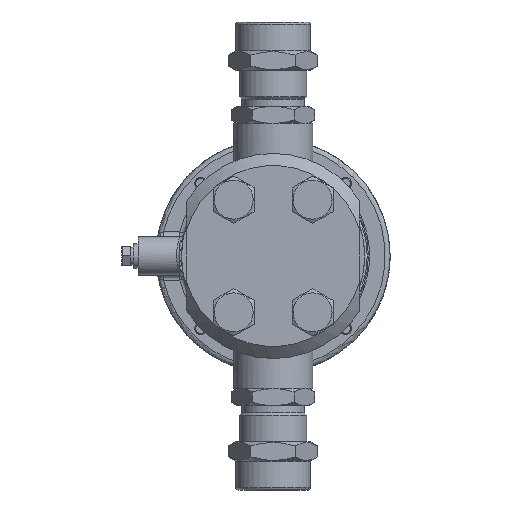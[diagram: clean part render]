
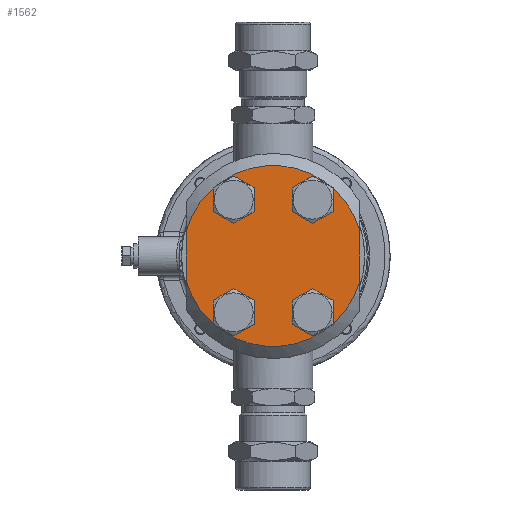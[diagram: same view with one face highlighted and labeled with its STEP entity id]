
A CAD part, front view. The second image highlights one B-rep face of the part: STEP entity #1562.
In plain terms, the highlighted planar face has unit normal (0, -1, 0).
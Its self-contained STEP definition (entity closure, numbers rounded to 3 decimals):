
#1562=ADVANCED_FACE('',(#17499,#17501,#17503,#17505,#17507),#17509,.T.);
#17499=FACE_BOUND('',#17500,.T.);
#17500=EDGE_LOOP('',(#27478,#27479,#27480,#27481,#27482));
#17501=FACE_BOUND('',#17502,.T.);
#17502=EDGE_LOOP('',(#27483,#27484,#27485,#27486,#27487));
#17503=FACE_BOUND('',#17504,.T.);
#17504=EDGE_LOOP('',(#27488,#27489,#27490,#27491,#27492));
#17505=FACE_BOUND('',#17506,.T.);
#17506=EDGE_LOOP('',(#27493,#27494,#27495,#27496));
#17507=FACE_OUTER_BOUND('',#17508,.T.);
#17508=EDGE_LOOP('',(#27497,#27498,#27499,#27500));
#17509=PLANE('',#17510);
#17510=AXIS2_PLACEMENT_3D('',#17511,#17512,#17513);
#17511=CARTESIAN_POINT('',(0.,-23.,0.));
#17512=DIRECTION('',(-0.,-1.,-0.));
#17513=DIRECTION('',(1.,0.,0.));
#27478=ORIENTED_EDGE('',*,*,#36148,.F.);
#27479=ORIENTED_EDGE('',*,*,#36118,.T.);
#27480=ORIENTED_EDGE('',*,*,#36116,.T.);
#27481=ORIENTED_EDGE('',*,*,#36160,.F.);
#27482=ORIENTED_EDGE('',*,*,#36167,.F.);
#27483=ORIENTED_EDGE('',*,*,#36130,.F.);
#27484=ORIENTED_EDGE('',*,*,#36114,.T.);
#27485=ORIENTED_EDGE('',*,*,#36112,.T.);
#27486=ORIENTED_EDGE('',*,*,#36142,.F.);
#27487=ORIENTED_EDGE('',*,*,#36168,.F.);
#27488=ORIENTED_EDGE('',*,*,#36078,.F.);
#27489=ORIENTED_EDGE('',*,*,#36122,.T.);
#27490=ORIENTED_EDGE('',*,*,#36120,.T.);
#27491=ORIENTED_EDGE('',*,*,#36090,.F.);
#27492=ORIENTED_EDGE('',*,*,#36169,.F.);
#27493=ORIENTED_EDGE('',*,*,#36060,.F.);
#27494=ORIENTED_EDGE('',*,*,#36126,.T.);
#27495=ORIENTED_EDGE('',*,*,#36072,.F.);
#27496=ORIENTED_EDGE('',*,*,#36170,.F.);
#27497=ORIENTED_EDGE('',*,*,#36097,.T.);
#27498=ORIENTED_EDGE('',*,*,#36171,.T.);
#27499=ORIENTED_EDGE('',*,*,#36106,.T.);
#27500=ORIENTED_EDGE('',*,*,#36172,.T.);
#36060=EDGE_CURVE('',#43059,#43060,#43061,.F.);
#36072=EDGE_CURVE('',#43081,#43082,#43083,.F.);
#36078=EDGE_CURVE('',#43091,#43092,#43093,.F.);
#36090=EDGE_CURVE('',#43113,#43114,#43115,.F.);
#36097=EDGE_CURVE('',#43126,#43124,#43127,.F.);
#36106=EDGE_CURVE('',#43142,#43140,#43143,.F.);
#36112=EDGE_CURVE('',#43153,#43150,#43154,.T.);
#36114=EDGE_CURVE('',#43151,#43153,#43156,.T.);
#36116=EDGE_CURVE('',#43160,#43157,#43161,.T.);
#36118=EDGE_CURVE('',#43158,#43160,#43163,.T.);
#36120=EDGE_CURVE('',#43165,#43114,#43166,.T.);
#36122=EDGE_CURVE('',#43091,#43165,#43168,.T.);
#36126=EDGE_CURVE('',#43059,#43082,#43173,.T.);
#36130=EDGE_CURVE('',#43151,#43179,#43180,.F.);
#36142=EDGE_CURVE('',#43200,#43150,#43201,.F.);
#36148=EDGE_CURVE('',#43158,#43209,#43210,.F.);
#36160=EDGE_CURVE('',#43230,#43157,#43231,.F.);
#36167=EDGE_CURVE('',#43209,#43230,#43240,.T.);
#36168=EDGE_CURVE('',#43179,#43200,#43241,.T.);
#36169=EDGE_CURVE('',#43092,#43113,#43242,.T.);
#36170=EDGE_CURVE('',#43060,#43081,#43243,.T.);
#36171=EDGE_CURVE('',#43124,#43142,#43244,.T.);
#36172=EDGE_CURVE('',#43140,#43126,#43245,.T.);
#43059=VERTEX_POINT('',#64920);
#43060=VERTEX_POINT('',#64921);
#43061=LINE('',#64922,#64923);
#43081=VERTEX_POINT('',#64968);
#43082=VERTEX_POINT('',#64969);
#43083=LINE('',#64970,#64971);
#43091=VERTEX_POINT('',#64994);
#43092=VERTEX_POINT('',#64995);
#43093=LINE('',#64996,#64997);
#43113=VERTEX_POINT('',#65042);
#43114=VERTEX_POINT('',#65043);
#43115=LINE('',#65044,#65045);
#43124=VERTEX_POINT('',#65095);
#43126=VERTEX_POINT('',#65123);
#43127=LINE('',#65124,#65125);
#43140=VERTEX_POINT('',#65235);
#43142=VERTEX_POINT('',#65263);
#43143=LINE('',#65264,#65265);
#43150=VERTEX_POINT('',#65334);
#43151=VERTEX_POINT('',#65335);
#43153=VERTEX_POINT('',#65340);
#43154=CIRCLE('',#65341,5.5);
#43156=CIRCLE('',#65348,5.5);
#43157=VERTEX_POINT('',#65352);
#43158=VERTEX_POINT('',#65353);
#43160=VERTEX_POINT('',#65358);
#43161=CIRCLE('',#65359,5.5);
#43163=CIRCLE('',#65366,5.5);
#43165=VERTEX_POINT('',#65374);
#43166=CIRCLE('',#65375,5.5);
#43168=CIRCLE('',#65382,5.5);
#43173=CIRCLE('',#65398,5.5);
#43179=VERTEX_POINT('',#65416);
#43180=LINE('',#65417,#65418);
#43200=VERTEX_POINT('',#65463);
#43201=LINE('',#65464,#65465);
#43209=VERTEX_POINT('',#65488);
#43210=LINE('',#65489,#65490);
#43230=VERTEX_POINT('',#65535);
#43231=LINE('',#65536,#65537);
#43240=CIRCLE('',#65564,7.6);
#43241=CIRCLE('',#65568,7.6);
#43242=CIRCLE('',#65572,7.6);
#43243=CIRCLE('',#65576,7.6);
#43244=CIRCLE('',#65580,37.5);
#43245=CIRCLE('',#65584,37.5);
#64920=CARTESIAN_POINT('',(-11.024,-23.,-21.96));
#64921=CARTESIAN_POINT('',(-8.874,-23.,-21.96));
#64922=CARTESIAN_POINT('',(-8.874,-23.,-21.96));
#64923=VECTOR('',#64924,1.);
#64924=DIRECTION('',(-1.,0.,0.));
#64968=CARTESIAN_POINT('',(-8.762,-23.,-23.822));
#64969=CARTESIAN_POINT('',(-10.868,-23.,-23.822));
#64970=CARTESIAN_POINT('',(-10.868,-23.,-23.822));
#64971=VECTOR('',#64972,1.);
#64972=DIRECTION('',(1.,0.,0.));
#64994=CARTESIAN_POINT('',(-11.024,-23.,24.732));
#64995=CARTESIAN_POINT('',(-8.874,-23.,24.732));
#64996=CARTESIAN_POINT('',(-8.874,-23.,24.732));
#64997=VECTOR('',#64998,1.);
#64998=DIRECTION('',(-1.,0.,0.));
#65042=CARTESIAN_POINT('',(-8.762,-23.,22.87));
#65043=CARTESIAN_POINT('',(-10.868,-23.,22.87));
#65044=CARTESIAN_POINT('',(-10.868,-23.,22.87));
#65045=VECTOR('',#65046,1.);
#65046=DIRECTION('',(1.,0.,0.));
#65095=CARTESIAN_POINT('',(36.,-23.,10.5));
#65123=CARTESIAN_POINT('',(36.,-23.,-10.5));
#65124=CARTESIAN_POINT('',(36.,-23.,10.5));
#65125=VECTOR('',#65126,1.);
#65126=DIRECTION('',(0.,0.,-1.));
#65235=CARTESIAN_POINT('',(-36.,-23.,-10.5));
#65263=CARTESIAN_POINT('',(-36.,-23.,10.5));
#65264=CARTESIAN_POINT('',(-36.,-23.,-10.5));
#65265=VECTOR('',#65266,1.);
#65266=DIRECTION('',(0.,0.,1.));
#65334=CARTESIAN_POINT('',(21.826,-23.,22.87));
#65335=CARTESIAN_POINT('',(21.669,-23.,24.732));
#65340=CARTESIAN_POINT('',(21.847,-23.,23.346));
#65341=AXIS2_PLACEMENT_3D('',#65342,#65343,#65344);
#65342=CARTESIAN_POINT('',(16.347,-23.,23.346));
#65343=DIRECTION('',(-0.,1.,0.));
#65344=DIRECTION('',(1.,0.,0.));
#65348=AXIS2_PLACEMENT_3D('',#65349,#65350,#65351);
#65349=CARTESIAN_POINT('',(16.347,-23.,23.346));
#65350=DIRECTION('',(-0.,1.,0.));
#65351=DIRECTION('',(0.968,0.,0.252));
#65352=CARTESIAN_POINT('',(21.826,-23.,-23.822));
#65353=CARTESIAN_POINT('',(21.669,-23.,-21.96));
#65358=CARTESIAN_POINT('',(21.847,-23.,-23.346));
#65359=AXIS2_PLACEMENT_3D('',#65360,#65361,#65362);
#65360=CARTESIAN_POINT('',(16.347,-23.,-23.346));
#65361=DIRECTION('',(-0.,1.,0.));
#65362=DIRECTION('',(1.,0.,0.));
#65366=AXIS2_PLACEMENT_3D('',#65367,#65368,#65369);
#65367=CARTESIAN_POINT('',(16.347,-23.,-23.346));
#65368=DIRECTION('',(-0.,1.,0.));
#65369=DIRECTION('',(0.968,0.,0.252));
#65374=CARTESIAN_POINT('',(-10.847,-23.,23.346));
#65375=AXIS2_PLACEMENT_3D('',#65376,#65377,#65378);
#65376=CARTESIAN_POINT('',(-16.347,-23.,23.346));
#65377=DIRECTION('',(-0.,1.,0.));
#65378=DIRECTION('',(1.,0.,0.));
#65382=AXIS2_PLACEMENT_3D('',#65383,#65384,#65385);
#65383=CARTESIAN_POINT('',(-16.347,-23.,23.346));
#65384=DIRECTION('',(-0.,1.,0.));
#65385=DIRECTION('',(0.968,0.,0.252));
#65398=AXIS2_PLACEMENT_3D('',#65399,#65400,#65401);
#65399=CARTESIAN_POINT('',(-16.347,-23.,-23.346));
#65400=DIRECTION('',(0.,1.,-0.));
#65401=DIRECTION('',(0.968,0.,0.252));
#65416=CARTESIAN_POINT('',(23.819,-23.,24.732));
#65417=CARTESIAN_POINT('',(23.819,-23.,24.732));
#65418=VECTOR('',#65419,1.);
#65419=DIRECTION('',(-1.,0.,0.));
#65463=CARTESIAN_POINT('',(23.932,-23.,22.87));
#65464=CARTESIAN_POINT('',(21.826,-23.,22.87));
#65465=VECTOR('',#65466,1.);
#65466=DIRECTION('',(1.,0.,0.));
#65488=CARTESIAN_POINT('',(23.819,-23.,-21.96));
#65489=CARTESIAN_POINT('',(23.819,-23.,-21.96));
#65490=VECTOR('',#65491,1.);
#65491=DIRECTION('',(-1.,0.,0.));
#65535=CARTESIAN_POINT('',(23.932,-23.,-23.822));
#65536=CARTESIAN_POINT('',(21.826,-23.,-23.822));
#65537=VECTOR('',#65538,1.);
#65538=DIRECTION('',(1.,0.,0.));
#65564=AXIS2_PLACEMENT_3D('',#65565,#65566,#65567);
#65565=CARTESIAN_POINT('',(16.347,-23.,-23.346));
#65566=DIRECTION('',(0.,-1.,0.));
#65567=DIRECTION('',(0.983,0.,0.182));
#65568=AXIS2_PLACEMENT_3D('',#65569,#65570,#65571);
#65569=CARTESIAN_POINT('',(16.347,-23.,23.346));
#65570=DIRECTION('',(0.,-1.,0.));
#65571=DIRECTION('',(0.983,0.,0.182));
#65572=AXIS2_PLACEMENT_3D('',#65573,#65574,#65575);
#65573=CARTESIAN_POINT('',(-16.347,-23.,23.346));
#65574=DIRECTION('',(0.,-1.,0.));
#65575=DIRECTION('',(0.983,0.,0.182));
#65576=AXIS2_PLACEMENT_3D('',#65577,#65578,#65579);
#65577=CARTESIAN_POINT('',(-16.347,-23.,-23.346));
#65578=DIRECTION('',(0.,-1.,0.));
#65579=DIRECTION('',(0.983,0.,0.182));
#65580=AXIS2_PLACEMENT_3D('',#65581,#65582,#65583);
#65581=CARTESIAN_POINT('',(0.,-23.,0.));
#65582=DIRECTION('',(0.,-1.,0.));
#65583=DIRECTION('',(0.96,0.,0.28));
#65584=AXIS2_PLACEMENT_3D('',#65585,#65586,#65587);
#65585=CARTESIAN_POINT('',(0.,-23.,0.));
#65586=DIRECTION('',(0.,-1.,0.));
#65587=DIRECTION('',(-0.96,0.,-0.28));
